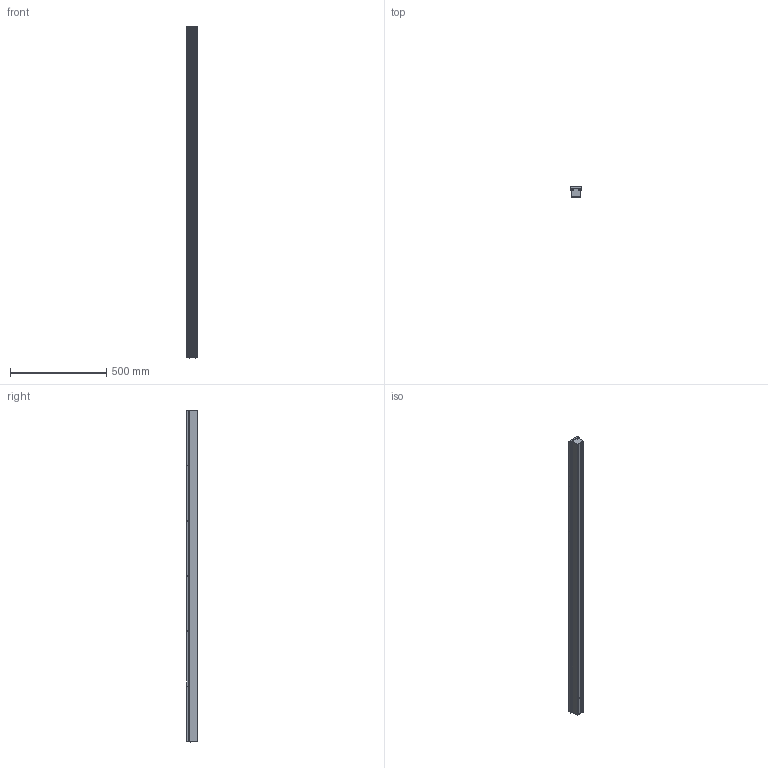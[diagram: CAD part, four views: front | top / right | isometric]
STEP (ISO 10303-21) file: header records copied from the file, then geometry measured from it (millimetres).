
FILE_DESCRIPTION (( 'STEP AP214' ), '1' );
FILE_NAME ('Pixel P 17.STEP', '2017-10-10T10:02:52', ( 'tecnica2' ), ( 'Microsoft' ), 'SwSTEP 2.0', 'SolidWorks 2016', '' );
FILE_SCHEMA (( 'AUTOMOTIVE_DESIGN' ));
Length unit declared in the file: millimetre
Products named in the file (6): TT 65 T 3X6; Tapa-BIM_definitiva; Perfil DRIVER-BIM_X6(L:1722mm); lente-BIM; Perfil LED-BIM_X6(L:1722); Pixel P 17
Assembly tree (14 placements, depth 2):
  Pixel P 17
    Perfil LED-BIM_X6(L:1722)
    lente-BIM  x6
    Perfil DRIVER-BIM_X6(L:1722mm)
    Tapa-BIM_definitiva  x2
    TT 65 T 3X6  x4
Bounding box: 62 x 55.3 x 1726 mm (x, y, z)
Volume: 4345415.5 mm3; surface area: 934633.9 mm2
Topology: 14 solids, 14 shells, 706 faces, 1674 edges, 964 vertices
Faces by surface type: cylinder 266, plane 228, cone 84, bspline 80, torus 24, sphere 24
Entity records: 9117 total; most frequent: CARTESIAN_POINT 1777, DIRECTION 1342, ORIENTED_EDGE 1248, EDGE_CURVE 624, AXIS2_PLACEMENT_3D 492, VERTEX_POINT 388, LINE 358, VECTOR 358
